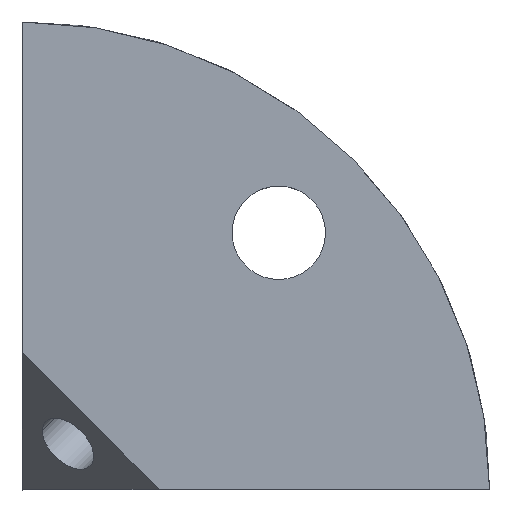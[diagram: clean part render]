
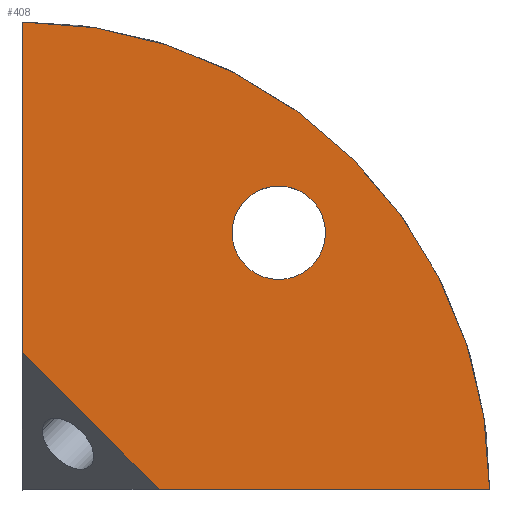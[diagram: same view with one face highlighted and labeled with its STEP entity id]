
A CAD part, top view. The second image highlights one B-rep face of the part: STEP entity #408.
In plain terms, the highlighted planar face has unit normal (0, 0, 1).
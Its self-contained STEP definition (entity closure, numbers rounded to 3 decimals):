
#15=DIRECTION('',(1.,0.,0.));
#16=VECTOR('',#15,29.);
#17=CARTESIAN_POINT('',(12.,0.,0.));
#18=LINE('',#17,#16);
#95=CARTESIAN_POINT('',(22.5,22.5,0.));
#96=DIRECTION('',(0.,0.,1.));
#97=DIRECTION('',(1.,0.,0.));
#98=AXIS2_PLACEMENT_3D('',#95,#96,#97);
#100=CARTESIAN_POINT('',(22.5,22.5,0.));
#101=DIRECTION('',(0.,0.,1.));
#102=DIRECTION('',(-1.,0.,0.));
#103=AXIS2_PLACEMENT_3D('',#100,#101,#102);
#105=DIRECTION('',(-0.707,0.707,0.));
#106=VECTOR('',#105,16.971);
#107=CARTESIAN_POINT('',(12.,0.,0.));
#108=LINE('',#107,#106);
#109=DIRECTION('',(0.,1.,0.));
#110=VECTOR('',#109,29.);
#111=CARTESIAN_POINT('',(0.,12.,0.));
#112=LINE('',#111,#110);
#113=CARTESIAN_POINT('',(0.,0.,0.));
#114=DIRECTION('',(0.,0.,1.));
#115=DIRECTION('',(1.,0.,0.));
#116=AXIS2_PLACEMENT_3D('',#113,#114,#115);
#209=CARTESIAN_POINT('',(41.,0.,0.));
#210=CARTESIAN_POINT('',(0.,41.,0.));
#211=VERTEX_POINT('',#209);
#212=VERTEX_POINT('',#210);
#221=CARTESIAN_POINT('',(26.6,22.5,0.));
#222=CARTESIAN_POINT('',(18.4,22.5,0.));
#223=VERTEX_POINT('',#221);
#224=VERTEX_POINT('',#222);
#245=CARTESIAN_POINT('',(12.,0.,0.));
#247=VERTEX_POINT('',#245);
#249=CARTESIAN_POINT('',(0.,12.,0.));
#250=VERTEX_POINT('',#249);
#389=CARTESIAN_POINT('',(0.,0.,0.));
#390=DIRECTION('',(0.,0.,1.));
#391=DIRECTION('',(1.,0.,0.));
#392=AXIS2_PLACEMENT_3D('',#389,#390,#391);
#393=PLANE('',#392);
#395=ORIENTED_EDGE('',*,*,#394,.T.);
#397=ORIENTED_EDGE('',*,*,#396,.T.);
#399=ORIENTED_EDGE('',*,*,#398,.F.);
#400=ORIENTED_EDGE('',*,*,#272,.F.);
#401=EDGE_LOOP('',(#395,#397,#399,#400));
#402=FACE_OUTER_BOUND('',#401,.F.);
#403=ORIENTED_EDGE('',*,*,#379,.T.);
#405=ORIENTED_EDGE('',*,*,#404,.T.);
#406=EDGE_LOOP('',(#403,#405));
#407=FACE_BOUND('',#406,.F.);
#408=ADVANCED_FACE('',(#402,#407),#393,.T.);
#99=CIRCLE('',#98,4.1);
#104=CIRCLE('',#103,4.1);
#117=CIRCLE('',#116,41.);
#272=EDGE_CURVE('',#247,#211,#18,.T.);
#379=EDGE_CURVE('',#223,#224,#99,.T.);
#394=EDGE_CURVE('',#247,#250,#108,.T.);
#396=EDGE_CURVE('',#250,#212,#112,.T.);
#398=EDGE_CURVE('',#211,#212,#117,.T.);
#404=EDGE_CURVE('',#224,#223,#104,.T.);
